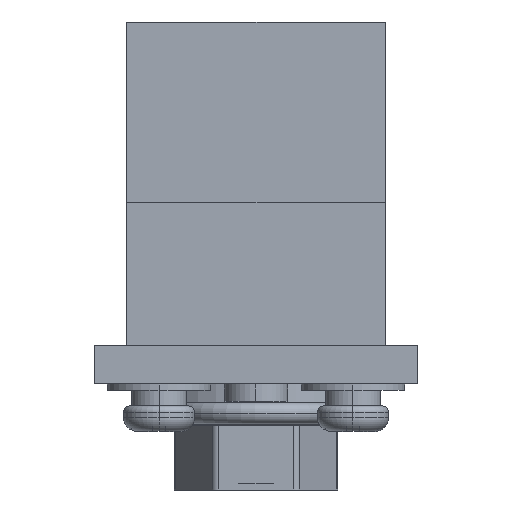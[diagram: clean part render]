
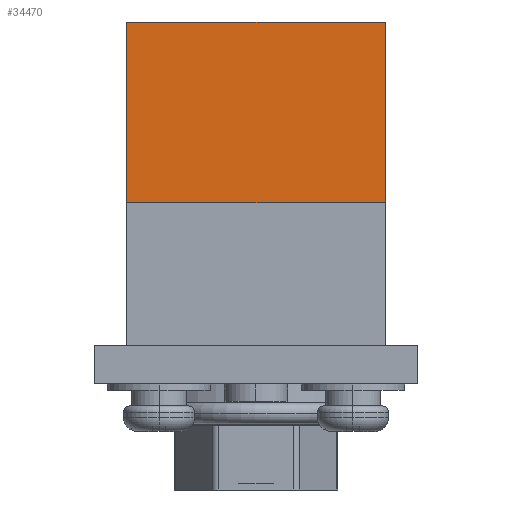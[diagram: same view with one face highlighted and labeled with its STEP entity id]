
A CAD part, left-side view. The second image highlights one B-rep face of the part: STEP entity #34470.
In plain terms, the highlighted planar face has unit normal (-1, 0, 0).
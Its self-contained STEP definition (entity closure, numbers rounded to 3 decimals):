
#32940=CARTESIAN_POINT('',(-27.488,66.46,28.));
#32950=VERTEX_POINT('',#32940);
#32980=CARTESIAN_POINT('',(-27.488,66.46,28.));
#32990=DIRECTION('',(0.,0.,-1.));
#33000=VECTOR('',#32990,1.);
#33010=LINE('',#32980,#33000);
#33020=CARTESIAN_POINT('',(-27.488,66.46,14.));
#33030=VERTEX_POINT('',#33020);
#33040=EDGE_CURVE('',#32950,#33030,#33010,.T.);
#33810=CARTESIAN_POINT('',(-27.488,46.46,28.));
#33820=VERTEX_POINT('',#33810);
#33850=CARTESIAN_POINT('',(-27.488,46.46,28.));
#33860=DIRECTION('',(0.,1.,0.));
#33870=VECTOR('',#33860,1.);
#33880=LINE('',#33850,#33870);
#33890=EDGE_CURVE('',#33820,#32950,#33880,.T.);
#34240=CARTESIAN_POINT('',(-27.488,66.46,28.));
#34250=DIRECTION('',(1.,0.,0.));
#34260=DIRECTION('',(0.,0.,1.));
#34270=AXIS2_PLACEMENT_3D('',#34240,#34250,#34260);
#34280=PLANE('',#34270);
#34290=ORIENTED_EDGE('',*,*,#33040,.T.);
#34300=ORIENTED_EDGE('',*,*,#33890,.T.);
#34310=CARTESIAN_POINT('',(-27.488,46.46,28.));
#34320=DIRECTION('',(0.,0.,-1.));
#34330=VECTOR('',#34320,1.);
#34340=LINE('',#34310,#34330);
#34350=CARTESIAN_POINT('',(-27.488,46.46,14.));
#34360=VERTEX_POINT('',#34350);
#34370=EDGE_CURVE('',#33820,#34360,#34340,.T.);
#34380=ORIENTED_EDGE('',*,*,#34370,.F.);
#34390=CARTESIAN_POINT('',(-27.488,46.46,14.));
#34400=DIRECTION('',(0.,1.,0.));
#34410=VECTOR('',#34400,1.);
#34420=LINE('',#34390,#34410);
#34430=EDGE_CURVE('',#34360,#33030,#34420,.T.);
#34440=ORIENTED_EDGE('',*,*,#34430,.F.);
#34450=EDGE_LOOP('',(#34440,#34380,#34300,#34290));
#34460=FACE_OUTER_BOUND('',#34450,.T.);
#34470=ADVANCED_FACE('',(#34460),#34280,.F.);
